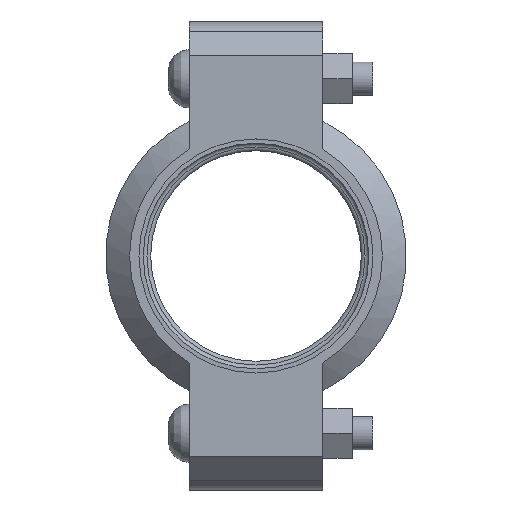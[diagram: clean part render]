
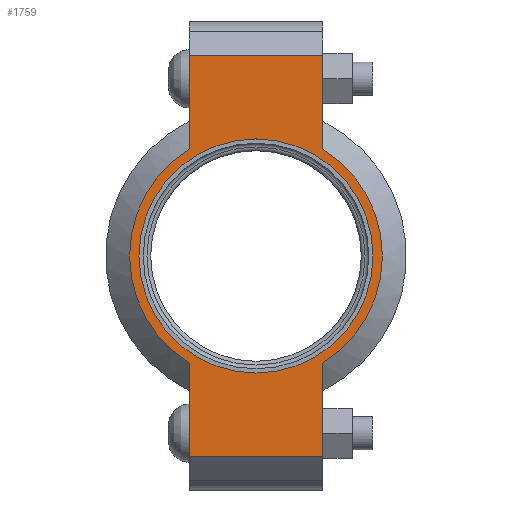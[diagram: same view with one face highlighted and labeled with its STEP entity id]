
A CAD part, left-side view. The second image highlights one B-rep face of the part: STEP entity #1759.
In plain terms, the highlighted planar face has unit normal (-1, 0, 0) as drawn and (0, 0, 1) by its records, which use the part's own axes.
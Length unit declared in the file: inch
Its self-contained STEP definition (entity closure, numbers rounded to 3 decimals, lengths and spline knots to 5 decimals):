
#109=LINE('',#3114,#202);
#117=LINE('',#3150,#210);
#124=LINE('',#3171,#217);
#133=LINE('',#3203,#226);
#134=LINE('',#3207,#227);
#135=LINE('',#3209,#228);
#202=VECTOR('',#2551,0.3937);
#210=VECTOR('',#2567,0.3937);
#217=VECTOR('',#2586,0.3937);
#226=VECTOR('',#2611,0.3937);
#227=VECTOR('',#2616,0.3937);
#228=VECTOR('',#2617,0.3937);
#276=FACE_BOUND('',#510,.T.);
#316=PLANE('',#2069);
#400=FACE_OUTER_BOUND('',#509,.T.);
#509=EDGE_LOOP('',(#1513,#1514,#1515,#1516,#1517,#1518,#1519,#1520));
#510=EDGE_LOOP('',(#1521));
#633=CIRCLE('',#2011,1.75);
#659=CIRCLE('',#2070,1.89);
#660=CIRCLE('',#2071,1.89);
#760=VERTEX_POINT('',#2930);
#803=VERTEX_POINT('',#3111);
#804=VERTEX_POINT('',#3113);
#815=VERTEX_POINT('',#3145);
#816=VERTEX_POINT('',#3149);
#823=VERTEX_POINT('',#3168);
#824=VERTEX_POINT('',#3170);
#834=VERTEX_POINT('',#3206);
#835=VERTEX_POINT('',#3208);
#967=EDGE_CURVE('',#760,#760,#633,.T.);
#1028=EDGE_CURVE('',#804,#803,#109,.T.);
#1042=EDGE_CURVE('',#816,#815,#117,.T.);
#1052=EDGE_CURVE('',#824,#823,#124,.T.);
#1067=EDGE_CURVE('',#816,#803,#133,.T.);
#1068=EDGE_CURVE('',#815,#824,#659,.T.);
#1069=EDGE_CURVE('',#834,#823,#134,.T.);
#1070=EDGE_CURVE('',#834,#835,#135,.T.);
#1071=EDGE_CURVE('',#835,#804,#660,.T.);
#1513=ORIENTED_EDGE('',*,*,#1067,.F.);
#1514=ORIENTED_EDGE('',*,*,#1042,.T.);
#1515=ORIENTED_EDGE('',*,*,#1068,.T.);
#1516=ORIENTED_EDGE('',*,*,#1052,.T.);
#1517=ORIENTED_EDGE('',*,*,#1069,.F.);
#1518=ORIENTED_EDGE('',*,*,#1070,.T.);
#1519=ORIENTED_EDGE('',*,*,#1071,.T.);
#1520=ORIENTED_EDGE('',*,*,#1028,.T.);
#1521=ORIENTED_EDGE('',*,*,#967,.T.);
#1759=ADVANCED_FACE('',(#400,#276),#316,.T.);
#2011=AXIS2_PLACEMENT_3D('',#2932,#2427,#2428);
#2069=AXIS2_PLACEMENT_3D('',#3204,#2612,#2613);
#2070=AXIS2_PLACEMENT_3D('',#3205,#2614,#2615);
#2071=AXIS2_PLACEMENT_3D('',#3210,#2618,#2619);
#2427=DIRECTION('center_axis',(0.,0.,-1.));
#2428=DIRECTION('ref_axis',(1.,0.,0.));
#2551=DIRECTION('',(1.,0.,0.));
#2567=DIRECTION('',(-1.,0.,0.));
#2586=DIRECTION('',(-1.,0.,0.));
#2611=DIRECTION('',(0.,-1.,0.));
#2612=DIRECTION('center_axis',(0.,0.,1.));
#2613=DIRECTION('ref_axis',(-1.,0.,0.));
#2614=DIRECTION('center_axis',(0.,0.,1.));
#2615=DIRECTION('ref_axis',(1.,0.,0.));
#2616=DIRECTION('',(0.,1.,0.));
#2617=DIRECTION('',(1.,0.,0.));
#2618=DIRECTION('center_axis',(0.,0.,1.));
#2619=DIRECTION('ref_axis',(1.,0.,0.));
#2930=CARTESIAN_POINT('',(-1.75,0.,0.94));
#2932=CARTESIAN_POINT('Origin',(0.,0.,0.94));
#3111=CARTESIAN_POINT('',(3.,-1.,0.94));
#3113=CARTESIAN_POINT('',(1.60378,-1.,0.94));
#3114=CARTESIAN_POINT('',(3.5,-1.,0.94));
#3145=CARTESIAN_POINT('',(1.60378,1.,0.94));
#3149=CARTESIAN_POINT('',(3.,1.,0.94));
#3150=CARTESIAN_POINT('',(-3.5,1.,0.94));
#3168=CARTESIAN_POINT('',(-3.,1.,0.94));
#3170=CARTESIAN_POINT('',(-1.60378,1.,0.94));
#3171=CARTESIAN_POINT('',(-3.5,1.,0.94));
#3203=CARTESIAN_POINT('',(3.,-0.5,0.94));
#3204=CARTESIAN_POINT('Origin',(0.,0.,
0.94));
#3205=CARTESIAN_POINT('Origin',(0.,0.,0.94));
#3206=CARTESIAN_POINT('',(-3.,-1.,0.94));
#3207=CARTESIAN_POINT('',(-3.,0.5,0.94));
#3208=CARTESIAN_POINT('',(-1.60378,-1.,0.94));
#3209=CARTESIAN_POINT('',(3.5,-1.,0.94));
#3210=CARTESIAN_POINT('Origin',(0.,0.,0.94));
